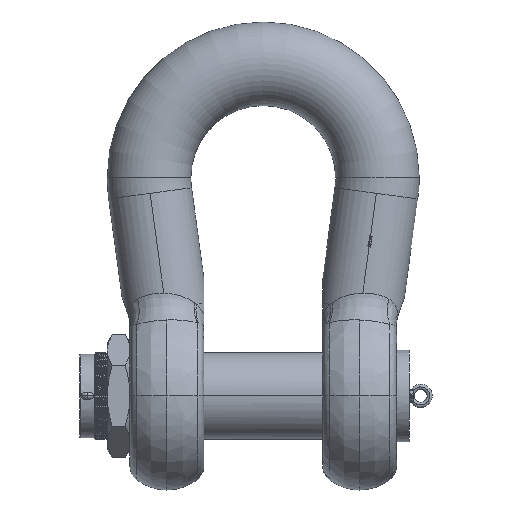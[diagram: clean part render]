
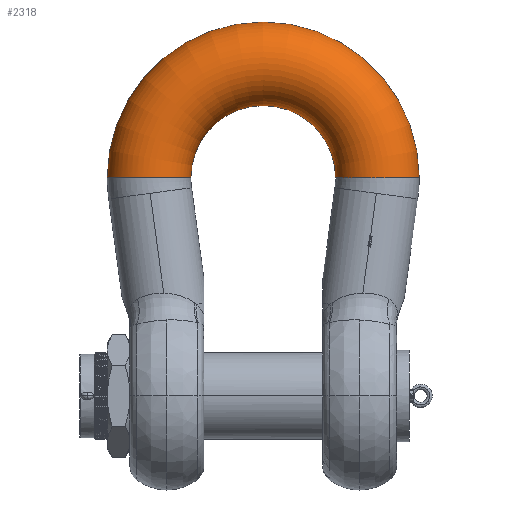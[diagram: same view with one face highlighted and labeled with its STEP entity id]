
A CAD part, front view. The second image highlights one B-rep face of the part: STEP entity #2318.
In plain terms, the highlighted toroidal (fillet/blend) face has major radius 355 mm and minor radius 129.995 mm.
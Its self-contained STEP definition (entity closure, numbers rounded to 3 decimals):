
#2318=ADVANCED_FACE('',(#5496),#5497,.T.);
#5496=FACE_OUTER_BOUND('',#11989,.T.);
#5497=TOROIDAL_SURFACE('',#11990,355.0,129.995);
#11989=EDGE_LOOP('',(#38117,#38118,#38119,#38120));
#11990=AXIS2_PLACEMENT_3D('',#38121,#38122,#38123);
#38117=ORIENTED_EDGE('',*,*,#51958,.T.);
#38118=ORIENTED_EDGE('',*,*,#51959,.F.);
#38119=ORIENTED_EDGE('',*,*,#51960,.T.);
#38120=ORIENTED_EDGE('',*,*,#51833,.F.);
#38121=CARTESIAN_POINT('',(0.0,0.0,678.0));
#38122=DIRECTION('',(0.0,-1.0,0.0));
#38123=DIRECTION('',(1.0,0.0,0.0));
#51833=EDGE_CURVE('',#60401,#60400,#60403,.F.);
#51958=EDGE_CURVE('',#60401,#60565,#60566,.F.);
#51959=EDGE_CURVE('',#60567,#60565,#60568,.T.);
#51960=EDGE_CURVE('',#60567,#60400,#60569,.T.);
#60400=VERTEX_POINT('',#77437);
#60401=VERTEX_POINT('',#77438);
#60403=CIRCLE('',#77440,129.995);
#60565=VERTEX_POINT('',#77778);
#60566=CIRCLE('',#77779,225.005);
#60567=VERTEX_POINT('',#77780);
#60568=B_SPLINE_CURVE_WITH_KNOTS('',5,(#77781,#77782,#77783,#77784,#77785,#77786,#77787,#77788,#77789,#77790,#77791,#77792,#77793,#77794,#77795,#77796,#77797,#77798,#77799,#77800,#77801,#77802,#77803,#77804),.UNSPECIFIED.,.F.,.F.,(6,3,3,3,3,3,3,6),(0.,82.941,165.882,248.823,331.764,414.706,497.647,577.548),.UNSPECIFIED.);
#60569=CIRCLE('',#77805,484.995);
#77437=CARTESIAN_POINT('',(-484.995,0.0,678.0));
#77438=CARTESIAN_POINT('',(-225.005,0.,678.0));
#77440=AXIS2_PLACEMENT_3D('',#117952,#117953,#117954);
#77778=CARTESIAN_POINT('',(225.005,0.,678.0));
#77779=AXIS2_PLACEMENT_3D('',#117959,#117960,#117961);
#77780=CARTESIAN_POINT('',(484.995,0.0,678.0));
#77781=CARTESIAN_POINT('',(484.995,0.,678.0));
#77782=CARTESIAN_POINT('',(484.995,-11.73,678.0));
#77783=CARTESIAN_POINT('',(483.672,-23.459,678.0));
#77784=CARTESIAN_POINT('',(481.026,-34.99,678.0));
#77785=CARTESIAN_POINT('',(473.178,-57.256,678.0));
#77786=CARTESIAN_POINT('',(460.569,-77.214,678.0));
#77787=CARTESIAN_POINT('',(453.16,-86.438,678.0));
#77788=CARTESIAN_POINT('',(436.389,-103.054,678.0));
#77789=CARTESIAN_POINT('',(416.339,-115.518,678.0));
#77790=CARTESIAN_POINT('',(405.65,-120.588,678.0));
#77791=CARTESIAN_POINT('',(383.313,-128.229,678.0));
#77792=CARTESIAN_POINT('',(359.835,-130.704,678.0));
#77793=CARTESIAN_POINT('',(348.005,-130.606,678.0));
#77794=CARTESIAN_POINT('',(324.571,-127.744,678.0));
#77795=CARTESIAN_POINT('',(302.363,-119.734,678.0));
#77796=CARTESIAN_POINT('',(291.759,-114.488,678.0));
#77797=CARTESIAN_POINT('',(271.918,-101.694,678.0));
#77798=CARTESIAN_POINT('',(255.425,-84.803,678.0));
#77799=CARTESIAN_POINT('',(248.169,-75.458,678.0));
#77800=CARTESIAN_POINT('',(236.116,-55.664,678.0));
#77801=CARTESIAN_POINT('',(228.689,-33.722,678.0));
#77802=CARTESIAN_POINT('',(226.233,-22.6,678.0));
#77803=CARTESIAN_POINT('',(225.005,-11.3,678.0));
#77804=CARTESIAN_POINT('',(225.005,0.,678.0));
#77805=AXIS2_PLACEMENT_3D('',#117962,#117963,#117964);
#117952=CARTESIAN_POINT('',(-355.0,0.0,678.0));
#117953=DIRECTION('',(0.,0.0,1.0));
#117954=DIRECTION('',(-1.0,0.0,0.));
#117959=CARTESIAN_POINT('',(0.0,0.,678.0));
#117960=DIRECTION('',(0.0,-1.0,0.0));
#117961=DIRECTION('',(-1.0,0.0,0.0));
#117962=CARTESIAN_POINT('',(0.0,0.,678.0));
#117963=DIRECTION('',(0.0,-1.0,0.0));
#117964=DIRECTION('',(-1.0,0.0,0.0));
